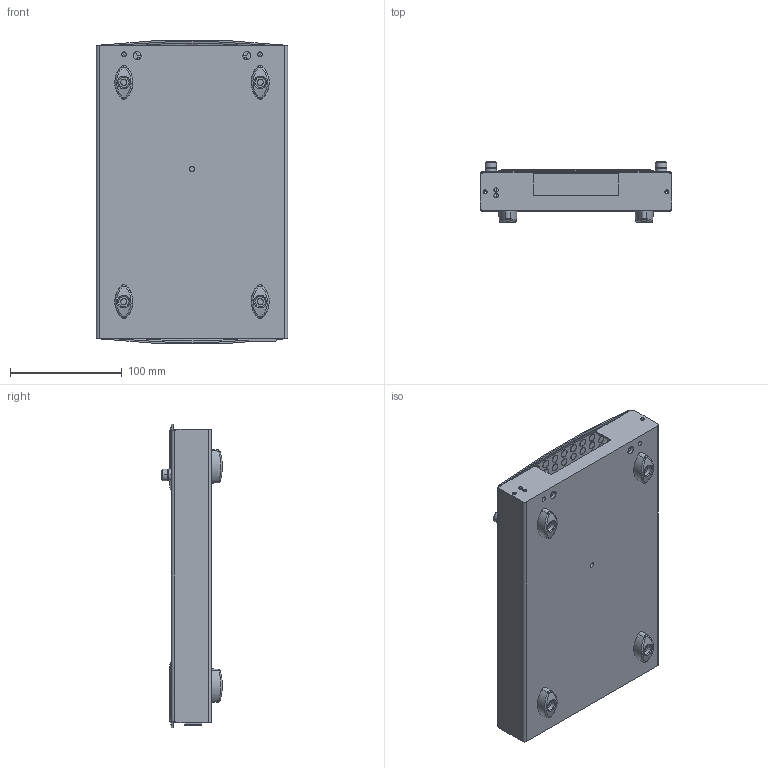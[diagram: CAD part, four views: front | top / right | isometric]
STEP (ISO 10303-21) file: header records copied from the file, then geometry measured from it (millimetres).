
FILE_DESCRIPTION((''),'2;1');
FILE_NAME('CU_ASSY_M-SERIES_DAQP_SW0002','2007-11-12T',('scarrasc'),(''),'PRO/ENGINEER BY PARAMETRIC TECHNOLOGY CORPORATION, 2006080','PRO/ENGINEER BY PARAMETRIC TECHNOLOGY CORPORATION, 2006080','');
FILE_SCHEMA(('CONFIG_CONTROL_DESIGN'));
Length unit declared in the file: inch
Products named in the file (1): CU_ASSY_M-SERIES_DAQP_SW0002
Bounding box: 170.94 x 54.1 x 271.57 mm (x, y, z)
Volume: 327603.8 mm3; surface area: 254027.5 mm2
Topology: 1 solids, 1 shells, 1188 faces, 2700 edges, 1764 vertices
Faces by surface type: cylinder 638, plane 402, cone 52, bspline 40, torus 24, revolution 24, extrusion 8
Entity records: 39973 total; most frequent: CARTESIAN_POINT 12027, DIRECTION 6268, ORIENTED_EDGE 5400, EDGE_CURVE 2700, AXIS2_PLACEMENT_3D 2586, VERTEX_POINT 1764, EDGE_LOOP 1500, CIRCLE 1470
